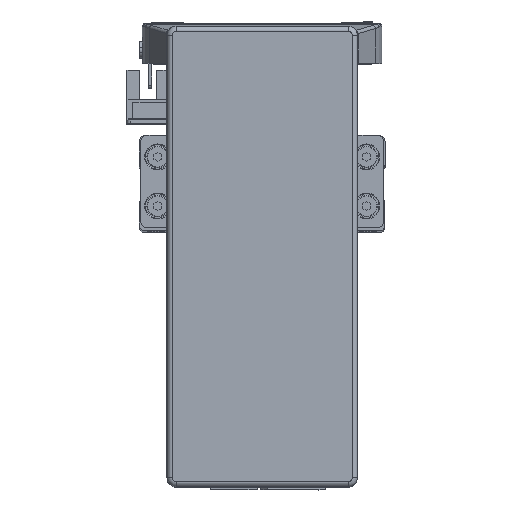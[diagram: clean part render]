
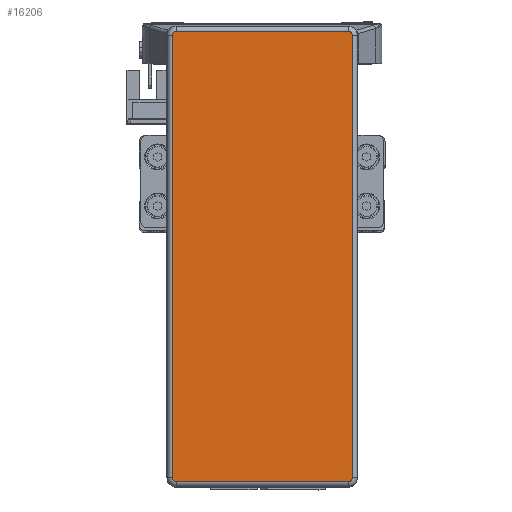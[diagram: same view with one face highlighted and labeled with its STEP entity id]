
A CAD part, top view. The second image highlights one B-rep face of the part: STEP entity #16206.
In plain terms, the highlighted planar face has unit normal (0, 0, 1) as drawn and (0, 0, -1) by its records, which use the part's own axes.
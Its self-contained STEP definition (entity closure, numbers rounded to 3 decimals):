
#130 = AXIS2_PLACEMENT_3D ( 'NONE', #11453, #11437, #11426 ) ;
#7446 = VERTEX_POINT ( 'NONE', #9223 ) ;
#7455 = VERTEX_POINT ( 'NONE', #9251 ) ;
#7464 = VERTEX_POINT ( 'NONE', #9231 ) ;
#7472 = VERTEX_POINT ( 'NONE', #9267 ) ;
#7479 = VERTEX_POINT ( 'NONE', #9327 ) ;
#7488 = VERTEX_POINT ( 'NONE', #9290 ) ;
#7513 = VERTEX_POINT ( 'NONE', #9289 ) ;
#7523 = VERTEX_POINT ( 'NONE', #9312 ) ;
#9223 = CARTESIAN_POINT ( 'NONE',  ( 71.995, 29.295, -32.2 ) ) ;
#9231 = CARTESIAN_POINT ( 'NONE',  ( 73.295, 27.995, -32.2 ) ) ;
#9251 = CARTESIAN_POINT ( 'NONE',  ( -71.995, -29.295, -32.2 ) ) ;
#9267 = CARTESIAN_POINT ( 'NONE',  ( -73.295, -27.995, -32.2 ) ) ;
#9289 = CARTESIAN_POINT ( 'NONE',  ( 73.295, -27.995, -32.2 ) ) ;
#9290 = CARTESIAN_POINT ( 'NONE',  ( -71.995, 29.295, -32.2 ) ) ;
#9312 = CARTESIAN_POINT ( 'NONE',  ( 71.995, -29.295, -32.2 ) ) ;
#9327 = CARTESIAN_POINT ( 'NONE',  ( -73.295, 27.995, -32.2 ) ) ;
#10096 = FACE_OUTER_BOUND ( 'NONE', #29506, .T. ) ;
#11370 = PLANE ( 'NONE',  #130 ) ;
#11426 = DIRECTION ( 'NONE',  ( 1., 0., 0. ) ) ;
#11437 = DIRECTION ( 'NONE',  ( 0., 0., 1. ) ) ;
#11453 = CARTESIAN_POINT ( 'NONE',  ( 71.995, -27.995, -32.2 ) ) ;
#13602 = ORIENTED_EDGE ( 'NONE', *, *, #18070, .T. ) ;
#13618 = ORIENTED_EDGE ( 'NONE', *, *, #18086, .T. ) ;
#13659 = ORIENTED_EDGE ( 'NONE', *, *, #18112, .T. ) ;
#13673 = ORIENTED_EDGE ( 'NONE', *, *, #18111, .T. ) ;
#13676 = ORIENTED_EDGE ( 'NONE', *, *, #18108, .T. ) ;
#13684 = ORIENTED_EDGE ( 'NONE', *, *, #18103, .T. ) ;
#13698 = ORIENTED_EDGE ( 'NONE', *, *, #18150, .T. ) ;
#13715 = ORIENTED_EDGE ( 'NONE', *, *, #18077, .T. ) ;
#16206 = ADVANCED_FACE ( 'NONE', ( #10096 ), #11370, .F. ) ;
#18070 = EDGE_CURVE ( 'NONE', #7523, #7455, #39871, .T. ) ;
#18077 = EDGE_CURVE ( 'NONE', #7464, #7513, #39852, .T. ) ;
#18086 = EDGE_CURVE ( 'NONE', #7472, #7479, #39902, .T. ) ;
#18103 = EDGE_CURVE ( 'NONE', #7488, #7446, #39887, .T. ) ;
#18108 = EDGE_CURVE ( 'NONE', #7479, #7488, #39868, .T. ) ;
#18111 = EDGE_CURVE ( 'NONE', #7446, #7464, #39916, .T. ) ;
#18112 = EDGE_CURVE ( 'NONE', #7513, #7523, #39950, .T. ) ;
#18150 = EDGE_CURVE ( 'NONE', #7455, #7472, #39932, .T. ) ;
#20418 = DIRECTION ( 'NONE',  ( 0., -1., 0. ) ) ;
#20449 = CARTESIAN_POINT ( 'NONE',  ( 71.995, -29.295, -32.2 ) ) ;
#20466 = DIRECTION ( 'NONE',  ( -1., 0., 0. ) ) ;
#20468 = CARTESIAN_POINT ( 'NONE',  ( 73.295, -27.995, -32.2 ) ) ;
#20513 = DIRECTION ( 'NONE',  ( 0., 1., 0. ) ) ;
#20529 = CARTESIAN_POINT ( 'NONE',  ( -73.295, -27.995, -32.2 ) ) ;
#20704 = CARTESIAN_POINT ( 'NONE',  ( 71.995, 29.295, -32.2 ) ) ;
#20707 = CARTESIAN_POINT ( 'NONE',  ( -71.995, 27.995, -32.2 ) ) ;
#20711 = CARTESIAN_POINT ( 'NONE',  ( 71.995, 27.995, -32.2 ) ) ;
#20717 = DIRECTION ( 'NONE',  ( 0., 0., -1. ) ) ;
#20721 = DIRECTION ( 'NONE',  ( 1., 0., 0. ) ) ;
#20722 = DIRECTION ( 'NONE',  ( 1., 0., 0. ) ) ;
#20735 = DIRECTION ( 'NONE',  ( 1., 0., 0. ) ) ;
#20736 = DIRECTION ( 'NONE',  ( 1., 0., 0. ) ) ;
#20751 = CARTESIAN_POINT ( 'NONE',  ( 71.995, -27.995, -32.2 ) ) ;
#20768 = DIRECTION ( 'NONE',  ( 0., 0., -1. ) ) ;
#20773 = DIRECTION ( 'NONE',  ( 0., 0., -1. ) ) ;
#20812 = DIRECTION ( 'NONE',  ( 1., 0., 0. ) ) ;
#20822 = CARTESIAN_POINT ( 'NONE',  ( -71.995, -27.995, -32.2 ) ) ;
#20848 = DIRECTION ( 'NONE',  ( 0., 0., -1. ) ) ;
#29506 = EDGE_LOOP ( 'NONE', ( #13715, #13659, #13602, #13698, #13618, #13676, #13684, #13673 ) ) ;
#39852 = LINE ( 'NONE', #20468, #39870 ) ;
#39857 = VECTOR ( 'NONE', #20721, 1000. ) ;
#39858 = VECTOR ( 'NONE', #20466, 1000. ) ;
#39868 = CIRCLE ( 'NONE', #41526, 1.3 ) ;
#39870 = VECTOR ( 'NONE', #20418, 1000. ) ;
#39871 = LINE ( 'NONE', #20449, #39858 ) ;
#39874 = VECTOR ( 'NONE', #20513, 1000. ) ;
#39887 = LINE ( 'NONE', #20704, #39857 ) ;
#39902 = LINE ( 'NONE', #20529, #39874 ) ;
#39916 = CIRCLE ( 'NONE', #41527, 1.3 ) ;
#39932 = CIRCLE ( 'NONE', #41608, 1.3 ) ;
#39950 = CIRCLE ( 'NONE', #41545, 1.3 ) ;
#41526 = AXIS2_PLACEMENT_3D ( 'NONE', #20707, #20717, #20722 ) ;
#41527 = AXIS2_PLACEMENT_3D ( 'NONE', #20711, #20773, #20735 ) ;
#41545 = AXIS2_PLACEMENT_3D ( 'NONE', #20751, #20768, #20736 ) ;
#41608 = AXIS2_PLACEMENT_3D ( 'NONE', #20822, #20848, #20812 ) ;
